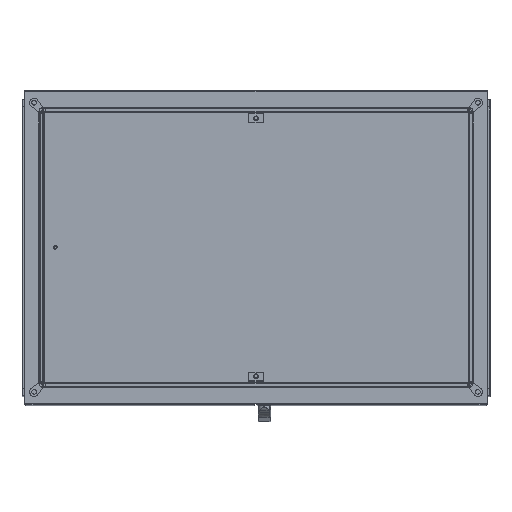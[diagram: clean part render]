
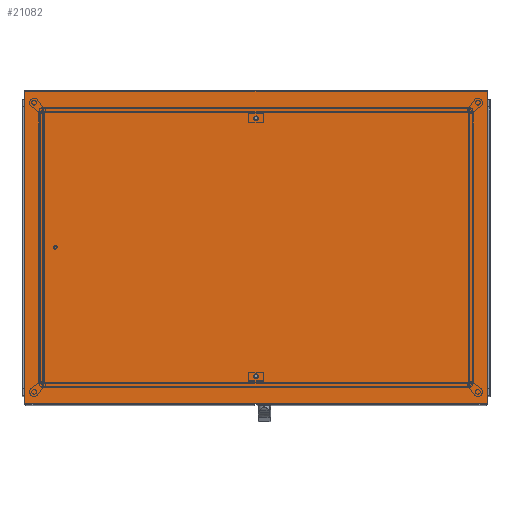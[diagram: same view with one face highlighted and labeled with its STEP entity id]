
A CAD part, top view. The second image highlights one B-rep face of the part: STEP entity #21082.
In plain terms, the highlighted planar face has unit normal (0, 0, 1) as drawn and (0, -1, 0) by its records, which use the part's own axes.
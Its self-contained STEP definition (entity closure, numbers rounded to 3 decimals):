
#1380=CIRCLE('',#23009,6.318);
#1381=CIRCLE('',#23010,6.318);
#6064=ORIENTED_EDGE('',*,*,#9984,.F.);
#6065=ORIENTED_EDGE('',*,*,#9997,.F.);
#6066=ORIENTED_EDGE('',*,*,#9943,.F.);
#6067=ORIENTED_EDGE('',*,*,#9990,.F.);
#6068=ORIENTED_EDGE('',*,*,#10004,.F.);
#6069=ORIENTED_EDGE('',*,*,#10005,.F.);
#9943=EDGE_CURVE('',#12249,#12250,#14295,.T.);
#9984=EDGE_CURVE('',#12284,#12285,#14325,.T.);
#9990=EDGE_CURVE('',#12285,#12249,#14330,.T.);
#9997=EDGE_CURVE('',#12250,#12284,#14337,.T.);
#10004=EDGE_CURVE('',#12298,#12298,#1380,.T.);
#10005=EDGE_CURVE('',#12299,#12299,#1381,.T.);
#12249=VERTEX_POINT('',#34737);
#12250=VERTEX_POINT('',#34739);
#12284=VERTEX_POINT('',#34817);
#12285=VERTEX_POINT('',#34819);
#12298=VERTEX_POINT('',#34855);
#12299=VERTEX_POINT('',#34857);
#14295=LINE('',#34738,#16364);
#14325=LINE('',#34818,#16394);
#14330=LINE('',#34830,#16399);
#14337=LINE('',#34842,#16406);
#16364=VECTOR('',#27993,1000.);
#16394=VECTOR('',#28053,1000.);
#16399=VECTOR('',#28062,1000.);
#16406=VECTOR('',#28071,1000.);
#17869=EDGE_LOOP('',(#6064,#6065,#6066,#6067));
#17870=EDGE_LOOP('',(#6068));
#17871=EDGE_LOOP('',(#6069));
#19172=FACE_BOUND('',#17869,.T.);
#19173=FACE_BOUND('',#17870,.T.);
#19174=FACE_BOUND('',#17871,.T.);
#20042=PLANE('',#23008);
#21082=ADVANCED_FACE('',(#19172,#19173,#19174),#20042,.F.);
#23008=AXIS2_PLACEMENT_3D('',#34853,#28078,#28079);
#23009=AXIS2_PLACEMENT_3D('',#34854,#28080,#28081);
#23010=AXIS2_PLACEMENT_3D('',#34856,#28082,#28083);
#27993=DIRECTION('',(1.,0.,0.));
#28053=DIRECTION('',(-1.,0.,0.));
#28062=DIRECTION('',(0.,0.,1.));
#28071=DIRECTION('',(0.,0.,-1.));
#28078=DIRECTION('',(0.,1.,0.));
#28079=DIRECTION('',(0.,0.,1.));
#28080=DIRECTION('',(0.,-1.,0.));
#28081=DIRECTION('',(0.,0.,-1.));
#28082=DIRECTION('',(0.,-1.,0.));
#28083=DIRECTION('',(0.,0.,-1.));
#34737=CARTESIAN_POINT('',(-599.5,0.,405.5));
#34738=CARTESIAN_POINT('',(-599.5,0.,405.5));
#34739=CARTESIAN_POINT('',(599.5,0.,405.5));
#34817=CARTESIAN_POINT('',(599.5,0.,-405.5));
#34818=CARTESIAN_POINT('',(599.5,0.,-405.5));
#34819=CARTESIAN_POINT('',(-599.5,0.,-405.5));
#34830=CARTESIAN_POINT('',(-599.5,0.,-405.5));
#34842=CARTESIAN_POINT('',(599.5,0.,405.5));
#34853=CARTESIAN_POINT('',(0.,0.,0.));
#34854=CARTESIAN_POINT('',(0.,0.,334.));
#34855=CARTESIAN_POINT('',(0.,0.,327.682));
#34856=CARTESIAN_POINT('',(0.,0.,-334.));
#34857=CARTESIAN_POINT('',(0.,0.,-340.318));
